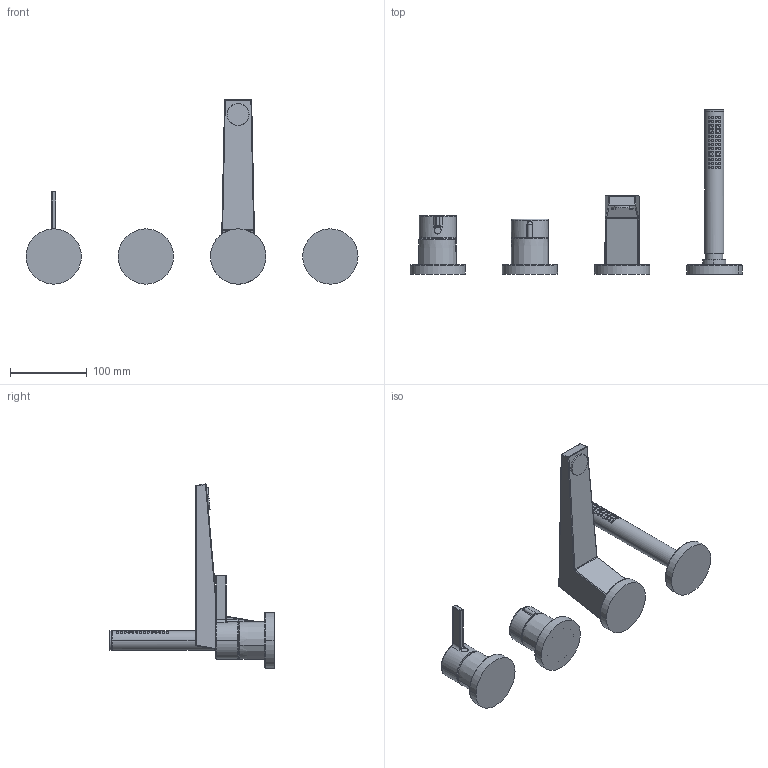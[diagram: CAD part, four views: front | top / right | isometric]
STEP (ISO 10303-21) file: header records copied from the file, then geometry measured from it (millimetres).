
FILE_DESCRIPTION (( 'STEP AP203' ), '1' );
FILE_NAME ('57752473.STEP', '2020-04-23T05:28:31', ( '' ), ( '' ), 'SwSTEP 2.0', 'SolidWorks 2016', '' );
FILE_SCHEMA (( 'CONFIG_CONTROL_DESIGN' ));
Length unit declared in the file: millimetre
Products named in the file (1): 57752473
Bounding box: 432 x 213.8 x 239.83 mm (x, y, z)
Volume: 916901.6 mm3; surface area: 146620 mm2
Topology: 13 solids, 13 shells, 237 faces, 483 edges, 328 vertices
Faces by surface type: bspline 102, cylinder 63, plane 41, torus 18, cone 10, sphere 3
Entity records: 16445 total; most frequent: CARTESIAN_POINT 11872, ORIENTED_EDGE 954, DIRECTION 774, EDGE_CURVE 477, AXIS2_PLACEMENT_3D 334, VERTEX_POINT 328, EDGE_LOOP 299, ADVANCED_FACE 237
